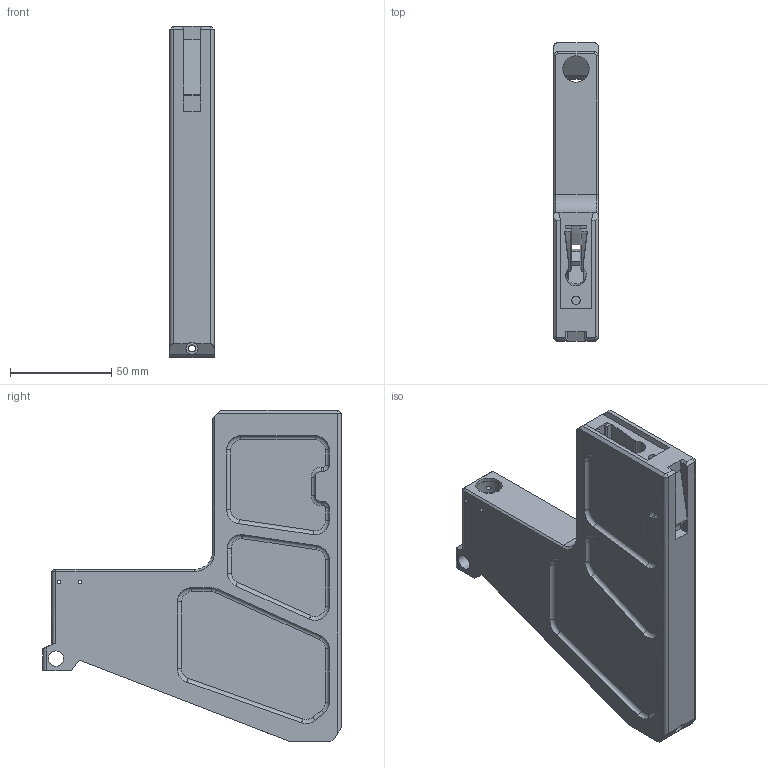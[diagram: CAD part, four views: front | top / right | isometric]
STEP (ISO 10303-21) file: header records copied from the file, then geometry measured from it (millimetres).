
FILE_DESCRIPTION(('HOOPS Exchange Step'),'2;1');
FILE_NAME('/private/var/mobile/Containers/Data/Application/CF5FE49D-83C9-4FF2-81F6-0AAB70978F0F/tmp/export/temp_export','2026-09-03T19:59:04+19:00',('mobile'),('Shapr3D Limited'),'HOOPS Exchange 2026.3','Shapr3D','Authorized');
FILE_SCHEMA( ('AP242_MANAGED_MODEL_BASED_3D_ENGINEERING_MIM_LF {1 0 10303 442 1 1 4}') );
Length unit declared in the file: millimetre
Products named in the file (2): Magazine 10 Rd.step; root
Assembly tree (1 placements, depth 2):
  root
    Magazine 10 Rd.step
Bounding box: 22 x 147.4 x 163.48 mm (x, y, z)
Volume: 187579 mm3; surface area: 67537.9 mm2
Topology: 1 solids, 1 shells, 205 faces, 569 edges, 373 vertices
Faces by surface type: plane 89, cylinder 63, torus 41, cone 10, bspline 2
Full cylindrical faces by diameter (mm): 1.75 x4, 3.5 x1, 4.2 x1, 6 x1, 7.5 x1, 13 x1, 14 x1
Entity records: 8644 total; most frequent: CARTESIAN_POINT 3163, DIRECTION 1159, ORIENTED_EDGE 1138, EDGE_CURVE 569, AXIS2_PLACEMENT_3D 415, VERTEX_POINT 373, VECTOR 329, LINE 329
